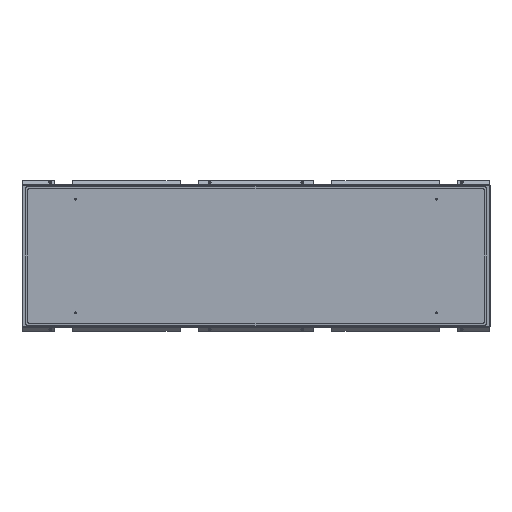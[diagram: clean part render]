
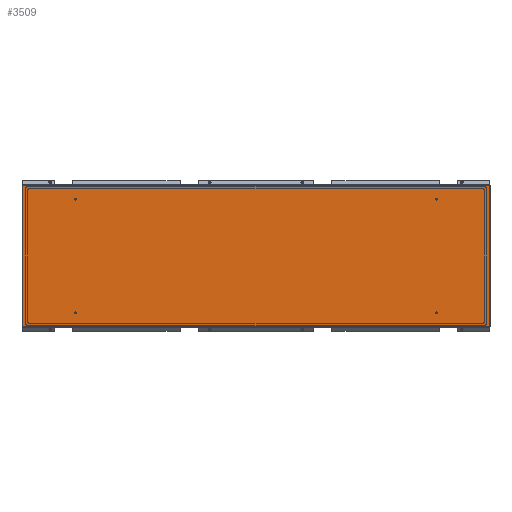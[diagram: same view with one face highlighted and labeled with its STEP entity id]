
A CAD part, left-side view. The second image highlights one B-rep face of the part: STEP entity #3509.
In plain terms, the highlighted planar face has unit normal (-1, 0, 0) as drawn and (0, 0, 1) by its records, which use the part's own axes.
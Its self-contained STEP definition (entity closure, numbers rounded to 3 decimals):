
#16 = AXIS2_PLACEMENT_3D ( 'NONE', #377, #6330, #334 ) ;
#334 = DIRECTION ( 'NONE',  ( -1., 0., 0. ) ) ;
#377 = CARTESIAN_POINT ( 'NONE',  ( 0., 0., 0. ) ) ;
#621 = CARTESIAN_POINT ( 'NONE',  ( -262.75, -870.5, 0. ) ) ;
#685 = EDGE_CURVE ( 'NONE', #4067, #4744, #3426, .T. ) ;
#813 = EDGE_LOOP ( 'NONE', ( #5695, #6823, #6656, #1034 ) ) ;
#985 = VECTOR ( 'NONE', #7365, 1000. ) ;
#1019 = VERTEX_POINT ( 'NONE', #621 ) ;
#1034 = ORIENTED_EDGE ( 'NONE', *, *, #3245, .T. ) ;
#1069 = EDGE_CURVE ( 'NONE', #7579, #1019, #5589, .T. ) ;
#1537 = CARTESIAN_POINT ( 'NONE',  ( -262.75, -870.5, 0. ) ) ;
#1628 = DIRECTION ( 'NONE',  ( 0., -1., 0. ) ) ;
#1732 = VECTOR ( 'NONE', #1628, 1000. ) ;
#2833 = EDGE_CURVE ( 'NONE', #4744, #7579, #4119, .T. ) ;
#3245 = EDGE_CURVE ( 'NONE', #1019, #4067, #4644, .T. ) ;
#3426 = LINE ( 'NONE', #4043, #4261 ) ;
#3509 = ADVANCED_FACE ( 'NONE', ( #7158 ), #5038, .F. ) ;
#3921 = CARTESIAN_POINT ( 'NONE',  ( 262.75, 870.5, 0. ) ) ;
#4043 = CARTESIAN_POINT ( 'NONE',  ( 262.75, -870.5, 0. ) ) ;
#4067 = VERTEX_POINT ( 'NONE', #5884 ) ;
#4119 = LINE ( 'NONE', #4698, #985 ) ;
#4261 = VECTOR ( 'NONE', #8163, 1000. ) ;
#4644 = LINE ( 'NONE', #8544, #8406 ) ;
#4698 = CARTESIAN_POINT ( 'NONE',  ( -262.75, 870.5, 0. ) ) ;
#4744 = VERTEX_POINT ( 'NONE', #3921 ) ;
#5038 = PLANE ( 'NONE',  #16 ) ;
#5589 = LINE ( 'NONE', #1537, #1732 ) ;
#5695 = ORIENTED_EDGE ( 'NONE', *, *, #685, .T. ) ;
#5884 = CARTESIAN_POINT ( 'NONE',  ( 262.75, -870.5, 0. ) ) ;
#6330 = DIRECTION ( 'NONE',  ( 0., 0., -1. ) ) ;
#6656 = ORIENTED_EDGE ( 'NONE', *, *, #1069, .T. ) ;
#6823 = ORIENTED_EDGE ( 'NONE', *, *, #2833, .T. ) ;
#7158 = FACE_OUTER_BOUND ( 'NONE', #813, .T. ) ;
#7311 = DIRECTION ( 'NONE',  ( 1., 0., 0. ) ) ;
#7365 = DIRECTION ( 'NONE',  ( -1., 0., 0. ) ) ;
#7381 = CARTESIAN_POINT ( 'NONE',  ( -262.75, 870.5, 0. ) ) ;
#7579 = VERTEX_POINT ( 'NONE', #7381 ) ;
#8163 = DIRECTION ( 'NONE',  ( 0., 1., 0. ) ) ;
#8406 = VECTOR ( 'NONE', #7311, 1000. ) ;
#8544 = CARTESIAN_POINT ( 'NONE',  ( -262.75, -870.5, 0. ) ) ;
